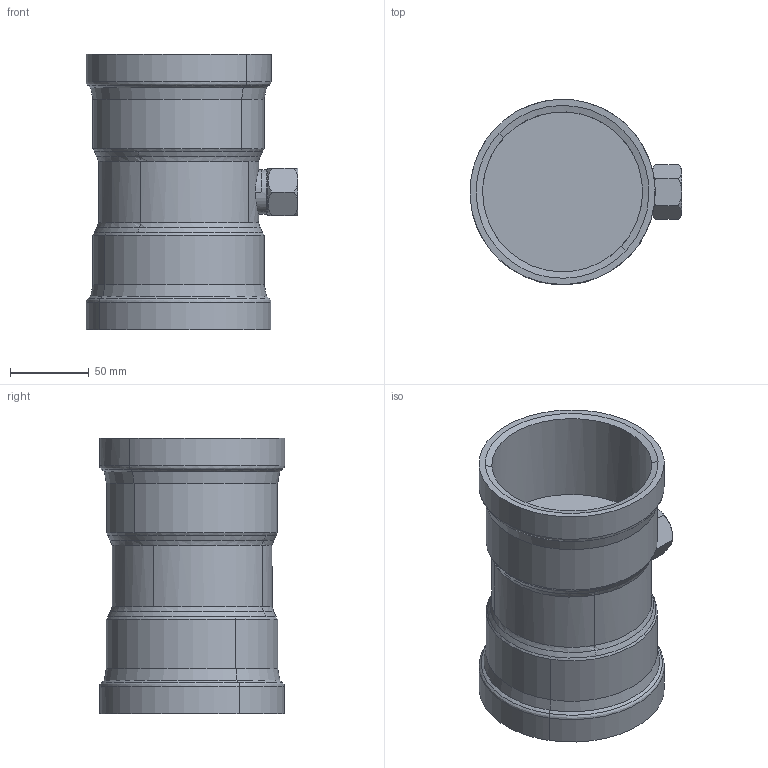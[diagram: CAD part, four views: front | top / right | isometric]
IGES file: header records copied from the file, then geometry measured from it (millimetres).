
Start section: 3D InterOp IGES (Version 25 0 1), Spatial Corp. Copyright (c) 1999-2007.
Global section: file name: pim0004508.igs; native system: Spatial Corp.; preprocessor: 3D InterOp ACIS/IGES; author: Cad-Pim; organization: TransMagic, Inc.; date: 20150430.081031; units: millimetre
Bounding box: 134.43 x 117.44 x 175 mm (x, y, z)
Volume: 673517.7 mm3; surface area: 124717.1 mm2
Topology: 1 solids, 1 shells, 76 faces, 207 edges, 130 vertices
Faces by surface type: bspline 42, cone 18, cylinder 16
